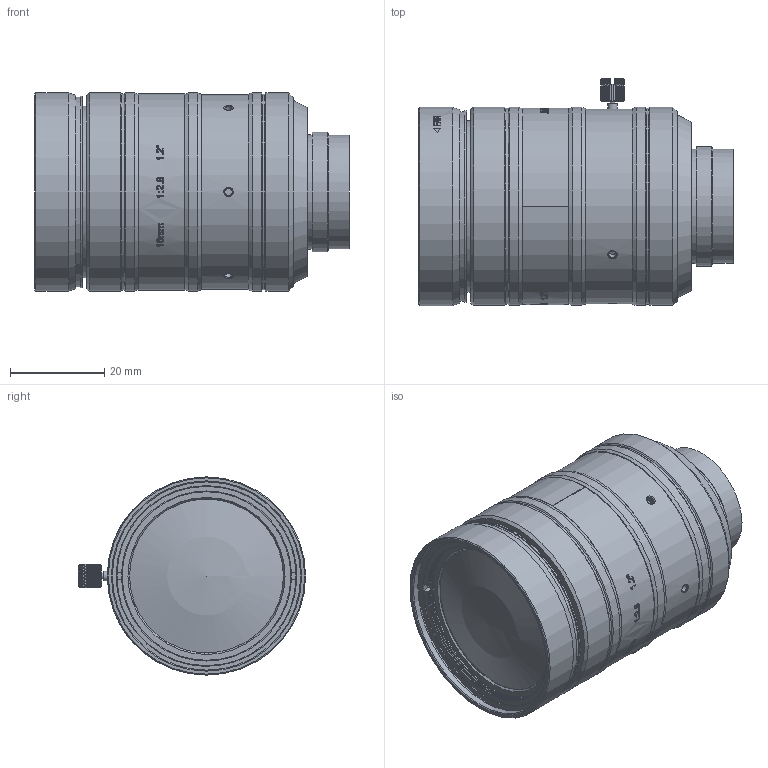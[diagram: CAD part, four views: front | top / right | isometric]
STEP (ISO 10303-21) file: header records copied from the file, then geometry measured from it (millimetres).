
FILE_DESCRIPTION(/* description */ (''),/* implementation_level */ '2;1');
FILE_NAME(/* name */ 'T-60033-D.stp',/* time_stamp */ '2026-07-16T14:42:57+08:00',/* author */ (''),/* organization */ (''),/* preprocessor_version */ 'ST-DEVELOPER v16.7',/* originating_system */ 'SIEMENS PLM Software NX 12.0',/* authorisation */ '');
FILE_SCHEMA (('AP203_CONFIGURATION_CONTROLLED_3D_DESIGN_OF_MECHANICAL_PARTS_AND_ASSEMBLIES_MIM_LF { 1 0 10303 403 2 1 2}'));
Length unit declared in the file: millimetre
Products named in the file (1): YC1057209A3292ru
Bounding box: 66.81 x 48.26 x 42.1 mm (x, y, z)
Volume: 77122.2 mm3; surface area: 20720.5 mm2
Topology: 3 solids, 8 shells, 1105 faces, 3065 edges, 2036 vertices
Faces by surface type: plane 748, cylinder 132, cone 114, bspline 102, sphere 5, extrusion 4
Full cylindrical faces by diameter (mm): 1.2 x1, 1.6 x3, 2 x1, 22.057 x1, 23.5 x1, 23.6 x1, 24.2 x1, 24.3 x1, 25.4 x1, 28.1 x1, 32.688 x1, 33.179 x1, 34.1 x1, 34.3 x1, 38.5 x1, 38.7 x1, 40 x1, 40.203 x1, 40.7 x1, 40.703 x1, 41.3 x1, 41.6 x1, 41.607 x1, 41.639 x1, 42.102 x2, 42.103 x4
Entity records: 51265 total; most frequent: CARTESIAN_POINT 19501, ORIENTED_EDGE 5896, DIRECTION 4864, EDGE_CURVE 2948, VERTEX_POINT 2000, AXIS2_PLACEMENT_3D 1852, EDGE_LOOP 1258, VECTOR 1160
